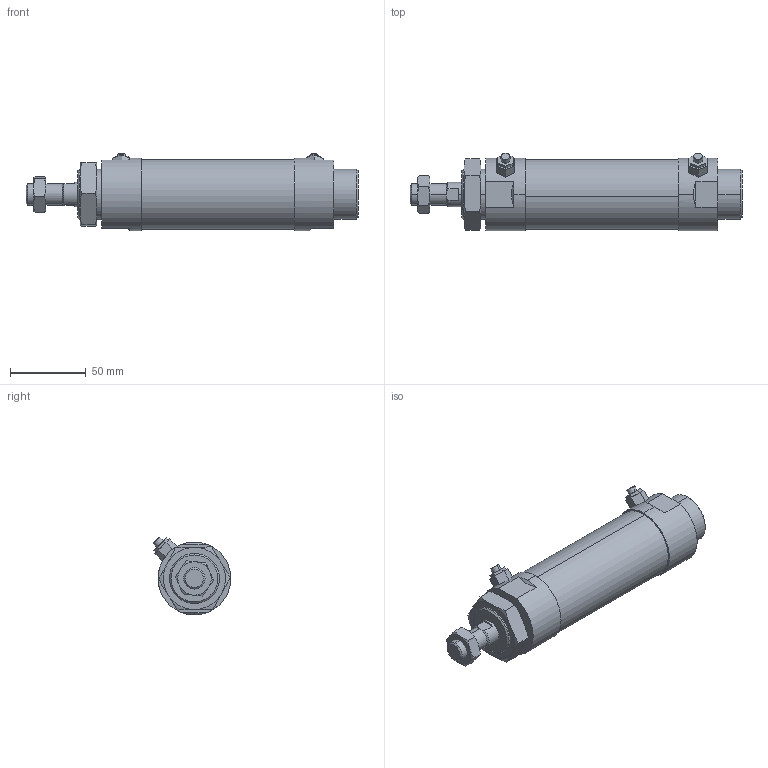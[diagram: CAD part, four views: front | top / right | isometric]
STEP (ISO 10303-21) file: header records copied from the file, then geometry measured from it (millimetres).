
FILE_DESCRIPTION (( 'STEP AP203' ), '1' );
FILE_NAME ('JG2-40-50-N.STEP', '2016-04-19T00:53:11', ( '' ), ( '' ), 'SwSTEP 2.0', 'SolidWorks 2014', '' );
FILE_SCHEMA (( 'CONFIG_CONTROL_DESIGN' ));
Length unit declared in the file: millimetre
Products named in the file (6): JG2-40B; 40-50; JG2-40-50-N; M14x1.5-8mm; JG2-40A; M33x2-11mm
Assembly tree (5 placements, depth 2):
  JG2-40-50-N
    JG2-40B
    40-50
    JG2-40A
    M14x1.5-8mm
    M33x2-11mm
Bounding box: 219 x 51.22 x 51.22 mm (x, y, z)
Volume: 303007.6 mm3; surface area: 45111.7 mm2
Topology: 5 solids, 5 shells, 130 faces, 294 edges, 181 vertices
Faces by surface type: plane 65, cylinder 26, torus 24, cone 15
Entity records: 4669 total; most frequent: CARTESIAN_POINT 1224, DIRECTION 585, ORIENTED_EDGE 580, EDGE_CURVE 290, AXIS2_PLACEMENT_3D 228, VERTEX_POINT 181, EDGE_LOOP 145, ADVANCED_FACE 130
